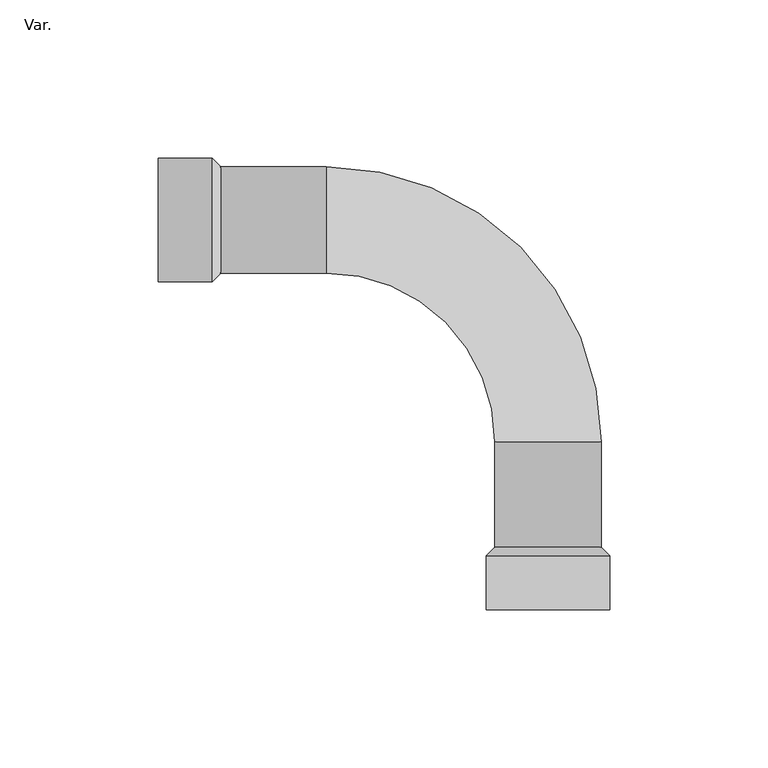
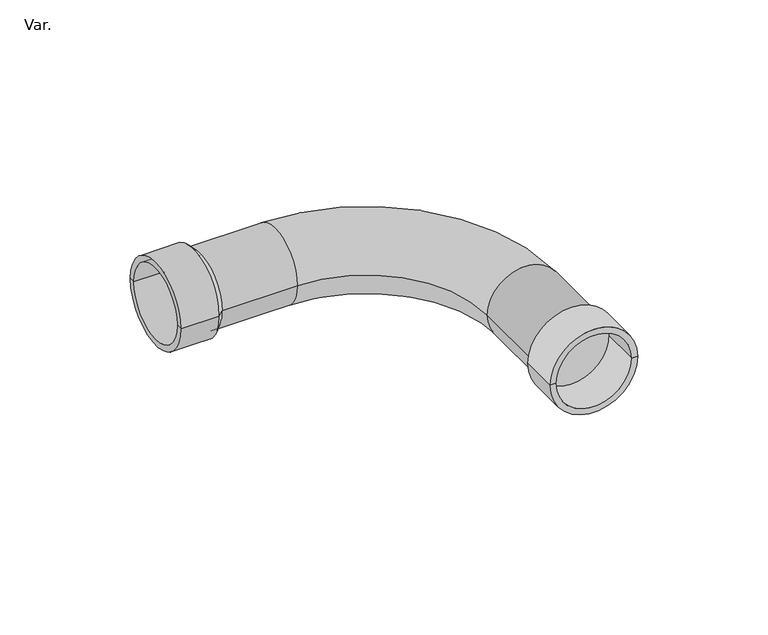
"""IFC4 building model written with IfcOpenShell, lengths in millimetres: cable carrier fitting geometry, AmancoWavin_ConexõesdoConduite_LinhaEletricaElectroAmancoCurva : Var.."""

from ifc_helpers import new_model, si_unit, point, frame, origin, place, context, project, spatial, polyline, circle_curve, ellipse_curve, trimmed, source, transform, mapped, element, save
from ifc_brep_helpers import plane_surface, cylinder_surface, revolved_surface, advanced_brep


def var_79ad25eb(model_context):
    return source(origin(), model_context, "Body", "AdvancedBrep", [
        advanced_brep(
        [(-19.45, -106.0, 0.0), (-16.75, -103.3, 0.0), (16.75, -103.3, 0.0), (19.45, -106.0, 0.0), (-19.45, -123.0, 0.0), (19.45, -123.0, 0.0), (-16.75, -123.0, 0.0), (16.75, -123.0, 0.0)],
        [
            (0, 1),
            (1, 2, circle_curve(frame((0.0, -103.3, 0.0), z_axis=(0.0, -1.0, 0.0), x_axis=(1.0, 0.0, 0.0)), 16.75)),
            (2, 3),
            (3, 0, circle_curve(frame((0.0, -106.0, 0.0), z_axis=(0.0, 1.0, 0.0), x_axis=(1.0, 0.0, 0.0)), 19.45)),
            (2, 1, circle_curve(frame((0.0, -103.3, 0.0), z_axis=(0.0, -1.0, 0.0), x_axis=(1.0, 0.0, 0.0)), 16.75)),
            (0, 3, circle_curve(frame((0.0, -106.0, 0.0), z_axis=(0.0, 1.0, 0.0), x_axis=(1.0, 0.0, 0.0)), 19.45)),
            (4, 0),
            (3, 5),
            (5, 4, circle_curve(frame((0.0, -123.0, 0.0), z_axis=(0.0, 1.0, 0.0), x_axis=(1.0, 0.0, 0.0)), 19.45)),
            (4, 5, circle_curve(frame((0.0, -123.0, 0.0), z_axis=(0.0, 1.0, 0.0), x_axis=(1.0, 0.0, 0.0)), 19.45)),
            (6, 4),
            (5, 7),
            (7, 6, circle_curve(frame((0.0, -123.0, 0.0), z_axis=(0.0, 1.0, 0.0), x_axis=(1.0, 0.0, 0.0)), 16.75)),
            (6, 7, circle_curve(frame((0.0, -123.0, 0.0), z_axis=(0.0, 1.0, 0.0), x_axis=(1.0, 0.0, 0.0)), 16.75)),
            (1, 6),
            (7, 2),
        ],
        [
            revolved_surface(polyline([(16.75, -103.3, 0.0), (19.45, -106.0, 0.0)]), (0.0, -1963.0, 0.0), (0.0, -1.0, 0.0)),
            cylinder_surface(frame((0.0, -1963.0, 0.0), z_axis=(0.0, -1.0, 0.0), x_axis=(1.0, 0.0, 0.0)), 19.45),
            plane_surface(frame((0.0, -123.0, 0.0), z_axis=(0.0, -1.0, 0.0), x_axis=(1.0, 0.0, 0.0))),
            revolved_surface(polyline([(16.75, -123.0, 0.0), (16.75, -103.29999999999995, 0.0)]), (0.0, -1963.0, 0.0), (0.0, -1.0, 0.0)),
        ],
        [
            (0, [[1, 2, 3, 4]]),
            (0, [[-3, 5, -1, 6]]),
            (1, [[7, -4, 8, 9]]),
            (1, [[-8, -6, -7, 10]]),
            (2, [[11, -9, 12, 13]]),
            (2, [[-12, -10, -11, 14]]),
            (3, [[15, -13, 16, -2]]),
            (3, [[-16, -14, -15, -5]]),
        ],
    ),
        advanced_brep(
        [(-103.3, 16.75, 0.0), (-123.0, 16.75, 0.0), (-123.0, -16.75, 0.0), (-103.3, -16.75, 0.0), (-106.0, 19.45, 0.0), (-106.0, -19.45, 0.0), (-123.0, 19.45, 0.0), (-123.0, -19.45, 0.0)],
        [
            (0, 1),
            (1, 2, circle_curve(frame((-123.0, 0.0, 0.0), z_axis=(-1.0, 0.0, 0.0), x_axis=(0.0, -1.0, 0.0)), 16.75)),
            (2, 3),
            (3, 0, circle_curve(frame((-103.3, 0.0, 0.0), z_axis=(1.0, 0.0, 0.0), x_axis=(0.0, -1.0, 0.0)), 16.75)),
            (2, 1, circle_curve(frame((-123.0, 0.0, 0.0), z_axis=(-1.0, 0.0, 0.0), x_axis=(0.0, -1.0, 0.0)), 16.75)),
            (0, 3, circle_curve(frame((-103.3, 0.0, 0.0), z_axis=(1.0, 0.0, 0.0), x_axis=(0.0, -1.0, 0.0)), 16.75)),
            (4, 0),
            (3, 5),
            (5, 4, circle_curve(frame((-106.0, 0.0, 0.0), z_axis=(1.0, 0.0, 0.0), x_axis=(0.0, -1.0, 0.0)), 19.45)),
            (4, 5, circle_curve(frame((-106.0, 0.0, 0.0), z_axis=(1.0, 0.0, 0.0), x_axis=(0.0, -1.0, 0.0)), 19.45)),
            (6, 4),
            (5, 7),
            (7, 6, circle_curve(frame((-123.0, 0.0, 0.0), z_axis=(1.0, 0.0, 0.0), x_axis=(0.0, -1.0, 0.0)), 19.45)),
            (6, 7, circle_curve(frame((-123.0, 0.0, 0.0), z_axis=(1.0, 0.0, 0.0), x_axis=(0.0, -1.0, 0.0)), 19.45)),
            (1, 6),
            (7, 2),
        ],
        [
            revolved_surface(polyline([(-123.0, -16.75, 0.0), (-103.30000000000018, -16.75, 0.0)]), (2000.0, 0.0, 0.0), (-1.0, 0.0, 0.0)),
            revolved_surface(polyline([(-103.3, -16.75, 0.0), (-106.0, -19.45, 0.0)]), (2000.0, 0.0, 0.0), (-1.0, 0.0, 0.0)),
            cylinder_surface(frame((2000.0, 0.0, 0.0), z_axis=(-1.0, 0.0, 0.0), x_axis=(0.0, -1.0, 0.0)), 19.45),
            plane_surface(frame((-123.0, 0.0, 0.0), z_axis=(-1.0, 0.0, 0.0), x_axis=(0.0, -1.0, 0.0))),
        ],
        [
            (0, [[1, 2, 3, 4]]),
            (0, [[-3, 5, -1, 6]]),
            (1, [[7, -4, 8, 9]]),
            (1, [[-8, -6, -7, 10]]),
            (2, [[11, -9, 12, 13]]),
            (2, [[-12, -10, -11, 14]]),
            (3, [[15, -13, 16, -2]]),
            (3, [[-16, -14, -15, -5]]),
        ],
    ),
        advanced_brep(
        [(-106.0, 16.75, 0.0), (-106.0, -16.75, 0.0), (-70.0, -16.75, 0.0), (-70.0, 16.75, 0.0), (-16.75, -70.0, 0.0), (16.75, -70.0, 0.0), (16.75, -106.0, 0.0), (-16.75, -106.0, 0.0)],
        [
            (0, 1, circle_curve(frame((-106.0, 0.0, 0.0), z_axis=(-1.0, 0.0, 0.0), x_axis=(0.0, -1.0, 0.0)), 16.75)),
            (1, 0, circle_curve(frame((-106.0, 0.0, 0.0), z_axis=(-1.0, 0.0, 0.0), x_axis=(0.0, -1.0, 0.0)), 16.75)),
            (1, 2),
            (2, 3, circle_curve(frame((-70.0, 0.0, 0.0), z_axis=(-1.0, 0.0, 0.0), x_axis=(0.0, -1.0, 0.0)), 16.75)),
            (3, 0),
            (3, 2, circle_curve(frame((-70.0, 0.0, 0.0), z_axis=(-1.0, 0.0, 0.0), x_axis=(0.0, -1.0, 0.0)), 16.75)),
            (4, 5, circle_curve(frame((0.0, -70.0, 0.0), z_axis=(0.0, 1.0, 0.0), x_axis=(-1.0, 0.0, 0.0)), 16.75)),
            (5, 3, circle_curve(frame((-70.0, -70.0, 0.0), z_axis=(0.0, 0.0, 1.0), x_axis=(0.0, 1.0, 0.0)), 86.75)),
            (2, 4, circle_curve(frame((-70.0, -70.0, 0.0), z_axis=(0.0, 0.0, -1.0), x_axis=(0.0, 1.0, 0.0)), 53.25)),
            (5, 4, circle_curve(frame((0.0, -70.0, 0.0), z_axis=(0.0, 1.0, 0.0), x_axis=(-1.0, 0.0, 0.0)), 16.75)),
            (6, 7, circle_curve(frame((0.0, -106.0, 0.0), z_axis=(0.0, -1.0, 0.0), x_axis=(-1.0, 0.0, 0.0)), 16.75)),
            (7, 6, circle_curve(frame((0.0, -106.0, 0.0), z_axis=(0.0, -1.0, 0.0), x_axis=(-1.0, 0.0, 0.0)), 16.75)),
            (4, 7),
            (6, 5),
        ],
        [
            plane_surface(frame((-106.0, 0.0, 0.0), z_axis=(-1.0, 0.0, 0.0), x_axis=(0.0, 0.0, 1.0))),
            cylinder_surface(frame((-106.0, 0.0, 0.0), z_axis=(-1.0, 0.0, 0.0), x_axis=(0.0, -1.0, 0.0)), 16.75),
            revolved_surface(trimmed(ellipse_curve(frame((-70.0, 0.0, 0.0), z_axis=(1.0, 0.0, 0.0), x_axis=(0.0, -1.0, 0.0)), 16.75, 16.75), [point((-70.0, 16.75, 0.0))], [point((-70.0, -16.75, 0.0))], True, "CARTESIAN"), (-70.0, -70.0, 0.0), (0.0, 0.0, 1.0)),
            revolved_surface(trimmed(ellipse_curve(frame((-70.0, 0.0, 0.0), z_axis=(1.0, 0.0, 0.0), x_axis=(0.0, -1.0, 0.0)), 16.75, 16.75), [point((-70.0, -16.75, 0.0))], [point((-70.0, 16.75, 0.0))], True, "CARTESIAN"), (-70.0, -70.0, 0.0), (0.0, 0.0, 1.0)),
            plane_surface(frame((0.0, -106.0, 0.0), z_axis=(0.0, -1.0, 0.0), x_axis=(0.0, 0.0, 1.0))),
            cylinder_surface(frame((0.0, -70.0, 0.0), z_axis=(0.0, 1.0, 0.0), x_axis=(-1.0, 0.0, 0.0)), 16.75),
        ],
        [
            (0, [[1, 2]]),
            (1, [[3, 4, 5, -2]]),
            (1, [[-5, 6, -3, -1]]),
            (2, [[7, 8, -4, 9]]),
            (3, [[10, -9, -6, -8]]),
            (4, [[11, 12]]),
            (5, [[13, -11, 14, -7]]),
            (5, [[-14, -12, -13, -10]]),
        ],
    ),
    ])


if __name__ == "__main__":
    model = new_model("IFC4")
    model_context = context("Model", 3, world=origin())
    ifc_project = project(units=[si_unit("LENGTHUNIT", "METRE", prefix="MILLI")], contexts=[model_context])
    site = spatial("IfcSite", under=ifc_project)
    building = spatial("IfcBuilding", under=site)
    placement = place(None, origin())
    var_shape = var_79ad25eb(model_context)
    element("IfcCableCarrierFitting", 1, ObjectType="AmancoWavin_ConexõesdoConduite_LinhaEletricaElectroAmancoCurva : Var.", at=placement, inside=building, context=model_context, shape_type="MappedRepresentation", body=[
        mapped(var_shape, transform((0.0, 0.0, 0.0), x_axis=(1.0, 0.0, 0.0), y_axis=(0.0, 1.0, 0.0), z_axis=(0.0, 0.0, 1.0))),
    ])
    save(model, "model.ifc")
